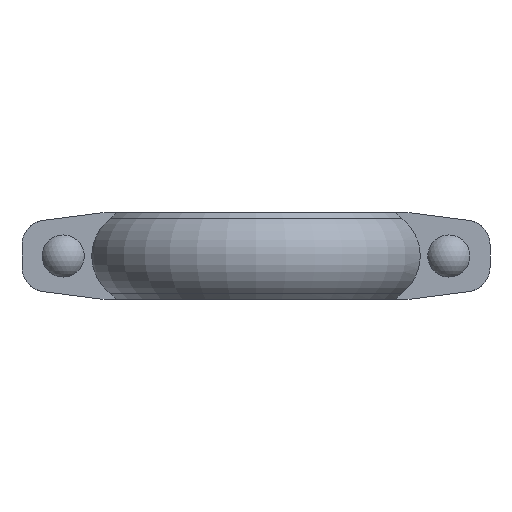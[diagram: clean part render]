
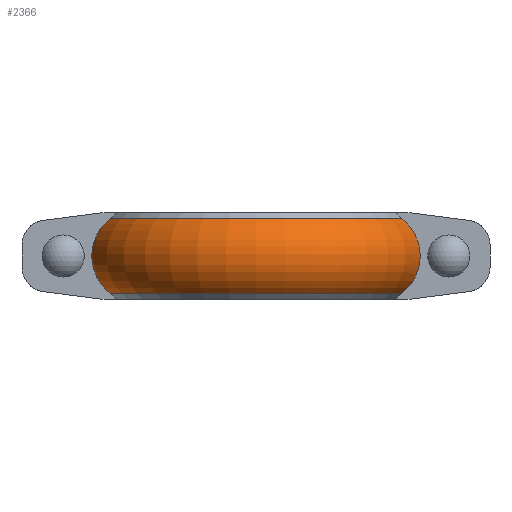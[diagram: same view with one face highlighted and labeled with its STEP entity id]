
A CAD part, front view. The second image highlights one B-rep face of the part: STEP entity #2366.
In plain terms, the highlighted toroidal (fillet/blend) face has major radius 95.547 mm and minor radius 37.803 mm.
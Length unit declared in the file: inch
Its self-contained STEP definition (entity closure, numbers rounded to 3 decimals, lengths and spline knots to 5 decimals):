
#47=TOROIDAL_SURFACE('',#2622,3.76169,1.48831);
#77=B_SPLINE_CURVE_WITH_KNOTS('',3,(#4527,#4528,#4529,#4530,#4531,#4532,
#4533,#4534,#4535,#4536,#4537,#4538,#4539,#4540,#4541,#4542,#4543,#4544,
#4545,#4546,#4547,#4548,#4549),.UNSPECIFIED.,.F.,.F.,(4,2,2,2,2,3,2,2,2,
2,4),(-3.16298,-2.77853,-2.07521,-1.3719,
-0.68595,0.,0.68595,1.3719,2.07521,
2.77853,3.16298),.UNSPECIFIED.);
#80=B_SPLINE_CURVE_WITH_KNOTS('',3,(#4566,#4567,#4568,#4569,#4570,#4571,
#4572,#4573,#4574,#4575,#4576,#4577,#4578,#4579,#4580,#4581,#4582,#4583,
#4584,#4585,#4586,#4587,#4588),.UNSPECIFIED.,.F.,.F.,(4,2,2,2,2,3,2,2,2,
2,4),(-3.16298,-2.77853,-2.07521,-1.3719,
-0.68595,0.,0.68595,1.3719,2.07521,
2.77853,3.16298),.UNSPECIFIED.);
#321=FACE_OUTER_BOUND('',#457,.T.);
#457=EDGE_LOOP('',(#2044,#2045,#2046,#2047));
#879=CIRCLE('',#2614,4.71683);
#884=CIRCLE('',#2623,4.71683);
#1085=VERTEX_POINT('',#4521);
#1086=VERTEX_POINT('',#4526);
#1089=VERTEX_POINT('',#4560);
#1090=VERTEX_POINT('',#4565);
#1398=EDGE_CURVE('',#1086,#1085,#77,.T.);
#1402=EDGE_CURVE('',#1090,#1089,#80,.T.);
#1415=EDGE_CURVE('',#1086,#1089,#879,.T.);
#1420=EDGE_CURVE('',#1090,#1085,#884,.T.);
#2044=ORIENTED_EDGE('',*,*,#1402,.T.);
#2045=ORIENTED_EDGE('',*,*,#1415,.F.);
#2046=ORIENTED_EDGE('',*,*,#1398,.T.);
#2047=ORIENTED_EDGE('',*,*,#1420,.F.);
#2366=ADVANCED_FACE('',(#321),#47,.T.);
#2614=AXIS2_PLACEMENT_3D('',#4649,#3255,#3256);
#2622=AXIS2_PLACEMENT_3D('',#4657,#3271,#3272);
#2623=AXIS2_PLACEMENT_3D('',#4658,#3273,#3274);
#3255=DIRECTION('center_axis',(0.,0.,-1.));
#3256=DIRECTION('ref_axis',(0.,1.,0.));
#3271=DIRECTION('center_axis',(0.,0.,-1.));
#3272=DIRECTION('ref_axis',(1.,0.,0.));
#3273=DIRECTION('center_axis',(0.,0.,1.));
#3274=DIRECTION('ref_axis',(0.,1.,0.));
#4521=CARTESIAN_POINT('',(4.43718,-1.6,1.14139));
#4526=CARTESIAN_POINT('',(4.43718,-1.6,-1.14139));
#4527=CARTESIAN_POINT('Ctrl Pts',(4.43718,-1.6,-1.14139));
#4528=CARTESIAN_POINT('Ctrl Pts',(4.47961,-1.6,-1.10799));
#4529=CARTESIAN_POINT('Ctrl Pts',(4.51936,-1.6,-1.07301));
#4530=CARTESIAN_POINT('Ctrl Pts',(4.62184,-1.6,-0.97364));
#4531=CARTESIAN_POINT('Ctrl Pts',(4.68795,-1.6,-0.89699));
#4532=CARTESIAN_POINT('Ctrl Pts',(4.8022,-1.6,-0.73133));
#4533=CARTESIAN_POINT('Ctrl Pts',(4.85031,-1.6,-0.64232));
#4534=CARTESIAN_POINT('Ctrl Pts',(4.92162,-1.6,-0.47453));
#4535=CARTESIAN_POINT('Ctrl Pts',(4.95178,-1.6,-0.38054));
#4536=CARTESIAN_POINT('Ctrl Pts',(4.9911,-1.6,-0.18829));
#4537=CARTESIAN_POINT('Ctrl Pts',(5.00025,-1.6,-0.09002));
#4538=CARTESIAN_POINT('Ctrl Pts',(5.00025,-1.6,0.));
#4539=CARTESIAN_POINT('Ctrl Pts',(5.00025,-1.6,0.09002));
#4540=CARTESIAN_POINT('Ctrl Pts',(4.9911,-1.6,0.18829));
#4541=CARTESIAN_POINT('Ctrl Pts',(4.95178,-1.6,0.38054));
#4542=CARTESIAN_POINT('Ctrl Pts',(4.92162,-1.6,0.47453));
#4543=CARTESIAN_POINT('Ctrl Pts',(4.85031,-1.6,0.64232));
#4544=CARTESIAN_POINT('Ctrl Pts',(4.8022,-1.6,0.73133));
#4545=CARTESIAN_POINT('Ctrl Pts',(4.68795,-1.6,0.89699));
#4546=CARTESIAN_POINT('Ctrl Pts',(4.62184,-1.6,0.97364));
#4547=CARTESIAN_POINT('Ctrl Pts',(4.51936,-1.6,1.07301));
#4548=CARTESIAN_POINT('Ctrl Pts',(4.47961,-1.6,1.10799));
#4549=CARTESIAN_POINT('Ctrl Pts',(4.43718,-1.6,1.14139));
#4560=CARTESIAN_POINT('',(-4.43718,-1.6,-1.14139));
#4565=CARTESIAN_POINT('',(-4.43718,-1.6,1.14139));
#4566=CARTESIAN_POINT('Ctrl Pts',(-4.43718,-1.6,1.14139));
#4567=CARTESIAN_POINT('Ctrl Pts',(-4.47961,-1.6,1.10799));
#4568=CARTESIAN_POINT('Ctrl Pts',(-4.51936,-1.6,1.07301));
#4569=CARTESIAN_POINT('Ctrl Pts',(-4.62184,-1.6,0.97364));
#4570=CARTESIAN_POINT('Ctrl Pts',(-4.68795,-1.6,0.89699));
#4571=CARTESIAN_POINT('Ctrl Pts',(-4.8022,-1.6,0.73133));
#4572=CARTESIAN_POINT('Ctrl Pts',(-4.85031,-1.6,0.64232));
#4573=CARTESIAN_POINT('Ctrl Pts',(-4.92162,-1.6,0.47453));
#4574=CARTESIAN_POINT('Ctrl Pts',(-4.95178,-1.6,0.38054));
#4575=CARTESIAN_POINT('Ctrl Pts',(-4.9911,-1.6,0.18829));
#4576=CARTESIAN_POINT('Ctrl Pts',(-5.00025,-1.6,0.09002));
#4577=CARTESIAN_POINT('Ctrl Pts',(-5.00025,-1.6,0.));
#4578=CARTESIAN_POINT('Ctrl Pts',(-5.00025,-1.6,-0.09002));
#4579=CARTESIAN_POINT('Ctrl Pts',(-4.9911,-1.6,-0.18829));
#4580=CARTESIAN_POINT('Ctrl Pts',(-4.95178,-1.6,-0.38054));
#4581=CARTESIAN_POINT('Ctrl Pts',(-4.92162,-1.6,-0.47453));
#4582=CARTESIAN_POINT('Ctrl Pts',(-4.85031,-1.6,-0.64232));
#4583=CARTESIAN_POINT('Ctrl Pts',(-4.8022,-1.6,-0.73133));
#4584=CARTESIAN_POINT('Ctrl Pts',(-4.68795,-1.6,-0.89699));
#4585=CARTESIAN_POINT('Ctrl Pts',(-4.62184,-1.6,-0.97364));
#4586=CARTESIAN_POINT('Ctrl Pts',(-4.51936,-1.6,-1.07301));
#4587=CARTESIAN_POINT('Ctrl Pts',(-4.47961,-1.6,-1.10799));
#4588=CARTESIAN_POINT('Ctrl Pts',(-4.43718,-1.6,-1.14139));
#4649=CARTESIAN_POINT('Origin',(0.,0.,-1.14139));
#4657=CARTESIAN_POINT('Origin',(0.,0.,0.));
#4658=CARTESIAN_POINT('Origin',(0.,0.,1.14139));
